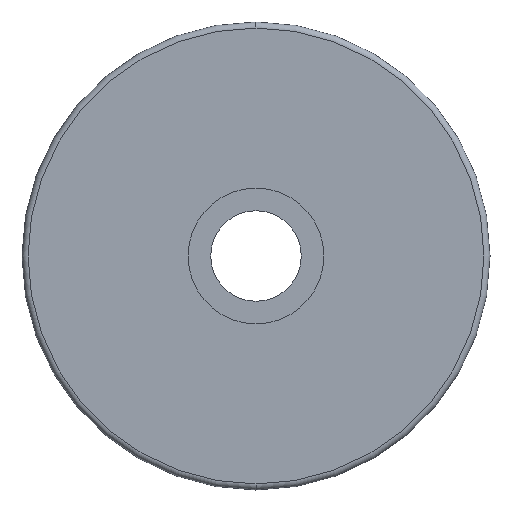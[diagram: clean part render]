
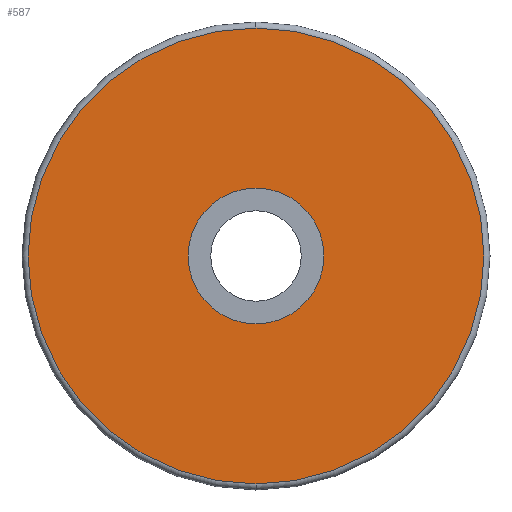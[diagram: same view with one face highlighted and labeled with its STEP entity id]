
A CAD part, left-side view. The second image highlights one B-rep face of the part: STEP entity #587.
In plain terms, the highlighted planar face has unit normal (-1, 0, 0).
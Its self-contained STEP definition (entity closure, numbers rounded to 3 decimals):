
#36 = ORIENTED_EDGE ( 'NONE', *, *, #534, .T. ) ;
#46 = CARTESIAN_POINT ( 'NONE',  ( 0., 4.5, 0. ) ) ;
#51 = CARTESIAN_POINT ( 'NONE',  ( 0., 0., 15.1 ) ) ;
#58 = CARTESIAN_POINT ( 'NONE',  ( 0., 0., 0. ) ) ;
#87 = AXIS2_PLACEMENT_3D ( 'NONE', #58, #350, #443 ) ;
#89 = EDGE_CURVE ( 'NONE', #475, #320, #117, .T. ) ;
#97 = ORIENTED_EDGE ( 'NONE', *, *, #89, .F. ) ;
#115 = EDGE_CURVE ( 'NONE', #429, #220, #325, .T. ) ;
#117 = CIRCLE ( 'NONE', #196, 4.5 ) ;
#141 = AXIS2_PLACEMENT_3D ( 'NONE', #503, #182, #675 ) ;
#182 = DIRECTION ( 'NONE',  ( -1., 0., 0. ) ) ;
#193 = DIRECTION ( 'NONE',  ( -1., 0., 0. ) ) ;
#196 = AXIS2_PLACEMENT_3D ( 'NONE', #237, #651, #223 ) ;
#220 = VERTEX_POINT ( 'NONE', #51 ) ;
#222 = ORIENTED_EDGE ( 'NONE', *, *, #501, .F. ) ;
#223 = DIRECTION ( 'NONE',  ( 0., 0., 1. ) ) ;
#229 = AXIS2_PLACEMENT_3D ( 'NONE', #258, #193, #308 ) ;
#230 = AXIS2_PLACEMENT_3D ( 'NONE', #46, #469, #373 ) ;
#237 = CARTESIAN_POINT ( 'NONE',  ( 0., 0., 0. ) ) ;
#258 = CARTESIAN_POINT ( 'NONE',  ( 0., 0., 0. ) ) ;
#261 = PLANE ( 'NONE',  #230 ) ;
#277 = EDGE_LOOP ( 'NONE', ( #222, #97 ) ) ;
#308 = DIRECTION ( 'NONE',  ( 0., 0., -1. ) ) ;
#320 = VERTEX_POINT ( 'NONE', #458 ) ;
#325 = CIRCLE ( 'NONE', #87, 15.1 ) ;
#350 = DIRECTION ( 'NONE',  ( -1., 0., 0. ) ) ;
#373 = DIRECTION ( 'NONE',  ( 0., 0., -1. ) ) ;
#376 = EDGE_LOOP ( 'NONE', ( #407, #36 ) ) ;
#382 = CIRCLE ( 'NONE', #229, 15.1 ) ;
#407 = ORIENTED_EDGE ( 'NONE', *, *, #115, .T. ) ;
#427 = CARTESIAN_POINT ( 'NONE',  ( 0., 0., -15.1 ) ) ;
#429 = VERTEX_POINT ( 'NONE', #427 ) ;
#443 = DIRECTION ( 'NONE',  ( 0., 0., -1. ) ) ;
#458 = CARTESIAN_POINT ( 'NONE',  ( 0., 0., 4.5 ) ) ;
#469 = DIRECTION ( 'NONE',  ( 1., 0., 0. ) ) ;
#472 = FACE_OUTER_BOUND ( 'NONE', #376, .T. ) ;
#475 = VERTEX_POINT ( 'NONE', #607 ) ;
#501 = EDGE_CURVE ( 'NONE', #320, #475, #579, .T. ) ;
#503 = CARTESIAN_POINT ( 'NONE',  ( 0., 0., 0. ) ) ;
#534 = EDGE_CURVE ( 'NONE', #220, #429, #382, .T. ) ;
#579 = CIRCLE ( 'NONE', #141, 4.5 ) ;
#587 = ADVANCED_FACE ( 'NONE', ( #472, #594 ), #261, .F. ) ;
#594 = FACE_BOUND ( 'NONE', #277, .T. ) ;
#607 = CARTESIAN_POINT ( 'NONE',  ( 0., 0., -4.5 ) ) ;
#651 = DIRECTION ( 'NONE',  ( -1., 0., 0. ) ) ;
#675 = DIRECTION ( 'NONE',  ( 0., 0., 1. ) ) ;
